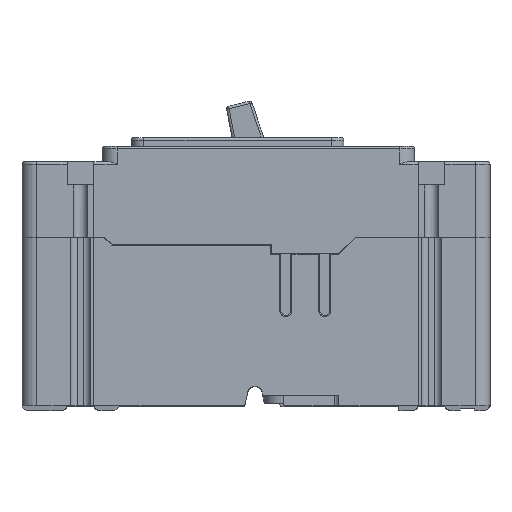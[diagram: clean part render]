
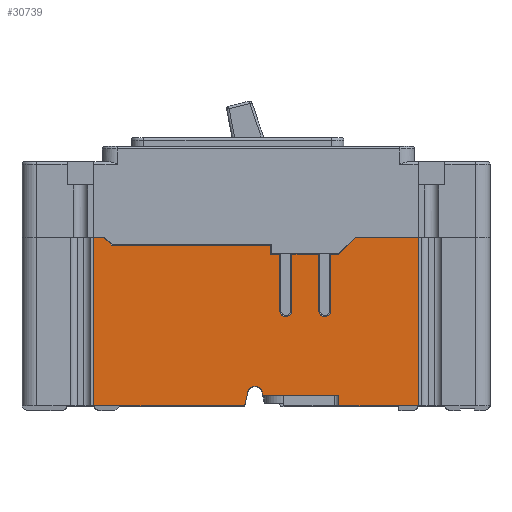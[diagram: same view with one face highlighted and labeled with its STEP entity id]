
A CAD part, top view. The second image highlights one B-rep face of the part: STEP entity #30739.
In plain terms, the highlighted planar face has unit normal (0, 0, 1).
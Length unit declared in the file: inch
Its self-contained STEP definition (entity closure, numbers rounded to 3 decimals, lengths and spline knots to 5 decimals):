
#215=DIRECTION('',(-1.,0.,0.));
#216=VECTOR('',#215,1.017);
#217=CARTESIAN_POINT('',(4.33,-2.157,2.063));
#218=LINE('',#217,#216);
#440=DIRECTION('',(-1.,0.,0.));
#441=VECTOR('',#440,1.933);
#442=CARTESIAN_POINT('',(2.103,-2.157,2.063));
#443=LINE('',#442,#441);
#2119=DIRECTION('',(-1.,0.,0.));
#2120=VECTOR('',#2119,0.798);
#2121=CARTESIAN_POINT('',(4.33,0.,2.063));
#2122=LINE('',#2121,#2120);
#2458=DIRECTION('',(-1.,0.,0.));
#2459=VECTOR('',#2458,0.127);
#2460=CARTESIAN_POINT('',(0.297,0.,2.063));
#2461=LINE('',#2460,#2459);
#5793=DIRECTION('',(0.,-1.,0.));
#5794=VECTOR('',#5793,2.157);
#5795=CARTESIAN_POINT('',(0.17,0.,2.063));
#5796=LINE('',#5795,#5794);
#5797=DIRECTION('',(1.,0.,0.));
#5798=VECTOR('',#5797,0.345);
#5799=CARTESIAN_POINT('',(2.7095,-0.219,2.063));
#5800=LINE('',#5799,#5798);
#5801=DIRECTION('',(1.,0.,0.));
#5802=VECTOR('',#5801,0.1035);
#5803=CARTESIAN_POINT('',(3.2095,-0.219,2.063));
#5804=LINE('',#5803,#5802);
#5805=DIRECTION('',(-0.707,-0.707,0.));
#5806=VECTOR('',#5805,0.30971);
#5807=CARTESIAN_POINT('',(3.532,0.,2.063));
#5808=LINE('',#5807,#5806);
#5809=DIRECTION('',(0.,-1.,0.));
#5810=VECTOR('',#5809,2.157);
#5811=CARTESIAN_POINT('',(4.33,0.,2.063));
#5812=LINE('',#5811,#5810);
#5813=DIRECTION('',(0.,1.,0.));
#5814=VECTOR('',#5813,0.126);
#5815=CARTESIAN_POINT('',(3.313,-2.157,2.063));
#5816=LINE('',#5815,#5814);
#5817=DIRECTION('',(-1.,0.,0.));
#5818=VECTOR('',#5817,0.97488);
#5819=CARTESIAN_POINT('',(3.313,-2.031,2.063));
#5820=LINE('',#5819,#5818);
#5821=DIRECTION('',(-0.201,0.98,0.));
#5822=VECTOR('',#5821,0.04993);
#5823=CARTESIAN_POINT('',(2.33812,-2.031,2.063));
#5824=LINE('',#5823,#5822);
#5825=CARTESIAN_POINT('',(2.236,-2.001,2.063));
#5826=DIRECTION('',(0.,0.,1.));
#5827=DIRECTION('',(0.98,0.201,0.));
#5828=AXIS2_PLACEMENT_3D('',#5825,#5826,#5827);
#5830=DIRECTION('',(-0.228,-0.974,0.));
#5831=VECTOR('',#5830,0.18218);
#5832=CARTESIAN_POINT('',(2.14447,-1.9796,2.063));
#5833=LINE('',#5832,#5831);
#5834=DIRECTION('',(0.707,-0.707,0.));
#5835=VECTOR('',#5834,0.14001);
#5836=CARTESIAN_POINT('',(0.297,0.,2.063));
#5837=LINE('',#5836,#5835);
#5838=DIRECTION('',(1.,0.,0.));
#5839=VECTOR('',#5838,2.042);
#5840=CARTESIAN_POINT('',(0.396,-0.099,2.063));
#5841=LINE('',#5840,#5839);
#5842=DIRECTION('',(0.,-1.,0.));
#5843=VECTOR('',#5842,0.12);
#5844=CARTESIAN_POINT('',(2.438,-0.099,2.063));
#5845=LINE('',#5844,#5843);
#5846=DIRECTION('',(1.,0.,0.));
#5847=VECTOR('',#5846,0.1165);
#5848=CARTESIAN_POINT('',(2.438,-0.219,2.063));
#5849=LINE('',#5848,#5847);
#5859=DIRECTION('',(0.,1.,0.));
#5860=VECTOR('',#5859,0.7185);
#5861=CARTESIAN_POINT('',(2.5545,-0.9375,2.063));
#5862=LINE('',#5861,#5860);
#14061=DIRECTION('',(0.,-1.,0.));
#14062=VECTOR('',#14061,0.7185);
#14063=CARTESIAN_POINT('',(2.7095,-0.219,2.063));
#14064=LINE('',#14063,#14062);
#14074=CARTESIAN_POINT('',(2.632,-0.9375,2.063));
#14075=DIRECTION('',(0.,0.,-1.));
#14076=DIRECTION('',(1.,0.,0.));
#14077=AXIS2_PLACEMENT_3D('',#14074,#14075,#14076);
#14145=CARTESIAN_POINT('',(3.132,-0.9375,2.063));
#14146=DIRECTION('',(0.,0.,-1.));
#14147=DIRECTION('',(1.,0.,0.));
#14148=AXIS2_PLACEMENT_3D('',#14145,#14146,#14147);
#14169=DIRECTION('',(0.,1.,0.));
#14170=VECTOR('',#14169,0.7185);
#14171=CARTESIAN_POINT('',(3.0545,-0.9375,2.063));
#14172=LINE('',#14171,#14170);
#14178=DIRECTION('',(0.,-1.,0.));
#14179=VECTOR('',#14178,0.7185);
#14180=CARTESIAN_POINT('',(3.2095,-0.219,2.063));
#14181=LINE('',#14180,#14179);
#18988=CARTESIAN_POINT('',(4.33,0.,2.063));
#18989=CARTESIAN_POINT('',(4.33,-2.157,2.063));
#18990=VERTEX_POINT('',#18988);
#18991=VERTEX_POINT('',#18989);
#18996=CARTESIAN_POINT('',(0.297,0.,2.063));
#18997=CARTESIAN_POINT('',(0.396,-0.099,2.063));
#18998=VERTEX_POINT('',#18996);
#18999=VERTEX_POINT('',#18997);
#19000=CARTESIAN_POINT('',(2.438,-0.099,2.063));
#19001=VERTEX_POINT('',#19000);
#19002=CARTESIAN_POINT('',(2.438,-0.219,2.063));
#19003=VERTEX_POINT('',#19002);
#19004=CARTESIAN_POINT('',(3.532,0.,2.063));
#19005=CARTESIAN_POINT('',(3.313,-0.219,2.063));
#19006=VERTEX_POINT('',#19004);
#19007=VERTEX_POINT('',#19005);
#19008=CARTESIAN_POINT('',(0.17,0.,2.063));
#19009=VERTEX_POINT('',#19008);
#19034=CARTESIAN_POINT('',(0.17,-2.157,2.063));
#19036=VERTEX_POINT('',#19034);
#19240=CARTESIAN_POINT('',(2.32808,-1.98209,2.063));
#19241=CARTESIAN_POINT('',(2.14447,-1.9796,2.063));
#19242=VERTEX_POINT('',#19240);
#19243=VERTEX_POINT('',#19241);
#19244=CARTESIAN_POINT('',(2.103,-2.157,2.063));
#19245=VERTEX_POINT('',#19244);
#19252=CARTESIAN_POINT('',(3.313,-2.157,2.063));
#19253=CARTESIAN_POINT('',(3.313,-2.031,2.063));
#19254=VERTEX_POINT('',#19252);
#19255=VERTEX_POINT('',#19253);
#19256=CARTESIAN_POINT('',(2.33812,-2.031,2.063));
#19257=VERTEX_POINT('',#19256);
#22671=CARTESIAN_POINT('',(2.5545,-0.9375,2.063));
#22672=CARTESIAN_POINT('',(2.5545,-0.219,2.063));
#22673=VERTEX_POINT('',#22671);
#22674=VERTEX_POINT('',#22672);
#22675=CARTESIAN_POINT('',(2.7095,-0.9375,2.063));
#22676=VERTEX_POINT('',#22675);
#22679=CARTESIAN_POINT('',(2.7095,-0.219,2.063));
#22680=VERTEX_POINT('',#22679);
#22687=CARTESIAN_POINT('',(3.0545,-0.9375,2.063));
#22688=CARTESIAN_POINT('',(3.0545,-0.219,2.063));
#22689=VERTEX_POINT('',#22687);
#22690=VERTEX_POINT('',#22688);
#22691=CARTESIAN_POINT('',(3.2095,-0.9375,2.063));
#22692=VERTEX_POINT('',#22691);
#22695=CARTESIAN_POINT('',(3.2095,-0.219,2.063));
#22696=VERTEX_POINT('',#22695);
#30690=CARTESIAN_POINT('',(4.33,0.,2.063));
#30691=DIRECTION('',(0.,0.,1.));
#30692=DIRECTION('',(-1.,0.,0.));
#30693=AXIS2_PLACEMENT_3D('',#30690,#30691,#30692);
#30694=PLANE('',#30693);
#30696=ORIENTED_EDGE('',*,*,#30695,.F.);
#30698=ORIENTED_EDGE('',*,*,#30697,.F.);
#30700=ORIENTED_EDGE('',*,*,#30699,.F.);
#30702=ORIENTED_EDGE('',*,*,#30701,.T.);
#30704=ORIENTED_EDGE('',*,*,#30703,.F.);
#30706=ORIENTED_EDGE('',*,*,#30705,.F.);
#30708=ORIENTED_EDGE('',*,*,#30707,.F.);
#30710=ORIENTED_EDGE('',*,*,#30709,.T.);
#30712=ORIENTED_EDGE('',*,*,#30711,.F.);
#30713=ORIENTED_EDGE('',*,*,#26132,.F.);
#30715=ORIENTED_EDGE('',*,*,#30714,.T.);
#30716=ORIENTED_EDGE('',*,*,#24450,.T.);
#30718=ORIENTED_EDGE('',*,*,#30717,.T.);
#30720=ORIENTED_EDGE('',*,*,#30719,.T.);
#30722=ORIENTED_EDGE('',*,*,#30721,.T.);
#30724=ORIENTED_EDGE('',*,*,#30723,.T.);
#30726=ORIENTED_EDGE('',*,*,#30725,.T.);
#30727=ORIENTED_EDGE('',*,*,#24610,.T.);
#30728=ORIENTED_EDGE('',*,*,#30683,.F.);
#30729=ORIENTED_EDGE('',*,*,#26439,.F.);
#30731=ORIENTED_EDGE('',*,*,#30730,.T.);
#30732=ORIENTED_EDGE('',*,*,#29358,.T.);
#30734=ORIENTED_EDGE('',*,*,#30733,.T.);
#30736=ORIENTED_EDGE('',*,*,#30735,.T.);
#30737=EDGE_LOOP('',(#30696,#30698,#30700,#30702,#30704,#30706,#30708,#30710,
#30712,#30713,#30715,#30716,#30718,#30720,#30722,#30724,#30726,#30727,#30728,
#30729,#30731,#30732,#30734,#30736));
#30738=FACE_OUTER_BOUND('',#30737,.F.);
#30739=ADVANCED_FACE('',(#30738),#30694,.T.);
#5829=CIRCLE('',#5828,0.094);
#14078=CIRCLE('',#14077,0.0775);
#14149=CIRCLE('',#14148,0.0775);
#24450=EDGE_CURVE('',#18991,#19254,#218,.T.);
#24610=EDGE_CURVE('',#19245,#19036,#443,.T.);
#26132=EDGE_CURVE('',#18990,#19006,#2122,.T.);
#26439=EDGE_CURVE('',#18998,#19009,#2461,.T.);
#29358=EDGE_CURVE('',#18999,#19001,#5841,.T.);
#30683=EDGE_CURVE('',#19009,#19036,#5796,.T.);
#30695=EDGE_CURVE('',#22673,#22674,#5862,.T.);
#30697=EDGE_CURVE('',#22676,#22673,#14078,.T.);
#30699=EDGE_CURVE('',#22680,#22676,#14064,.T.);
#30701=EDGE_CURVE('',#22680,#22690,#5800,.T.);
#30703=EDGE_CURVE('',#22689,#22690,#14172,.T.);
#30705=EDGE_CURVE('',#22692,#22689,#14149,.T.);
#30707=EDGE_CURVE('',#22696,#22692,#14181,.T.);
#30709=EDGE_CURVE('',#22696,#19007,#5804,.T.);
#30711=EDGE_CURVE('',#19006,#19007,#5808,.T.);
#30714=EDGE_CURVE('',#18990,#18991,#5812,.T.);
#30717=EDGE_CURVE('',#19254,#19255,#5816,.T.);
#30719=EDGE_CURVE('',#19255,#19257,#5820,.T.);
#30721=EDGE_CURVE('',#19257,#19242,#5824,.T.);
#30723=EDGE_CURVE('',#19242,#19243,#5829,.T.);
#30725=EDGE_CURVE('',#19243,#19245,#5833,.T.);
#30730=EDGE_CURVE('',#18998,#18999,#5837,.T.);
#30733=EDGE_CURVE('',#19001,#19003,#5845,.T.);
#30735=EDGE_CURVE('',#19003,#22674,#5849,.T.);
